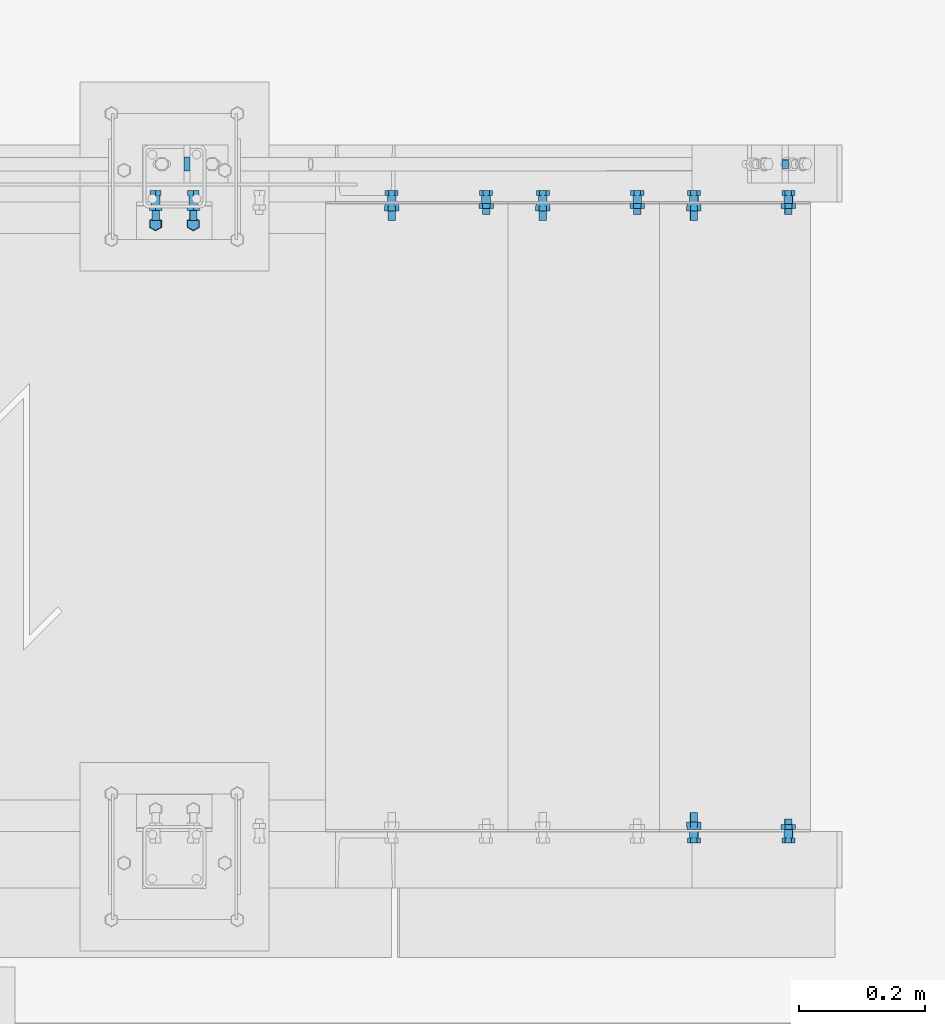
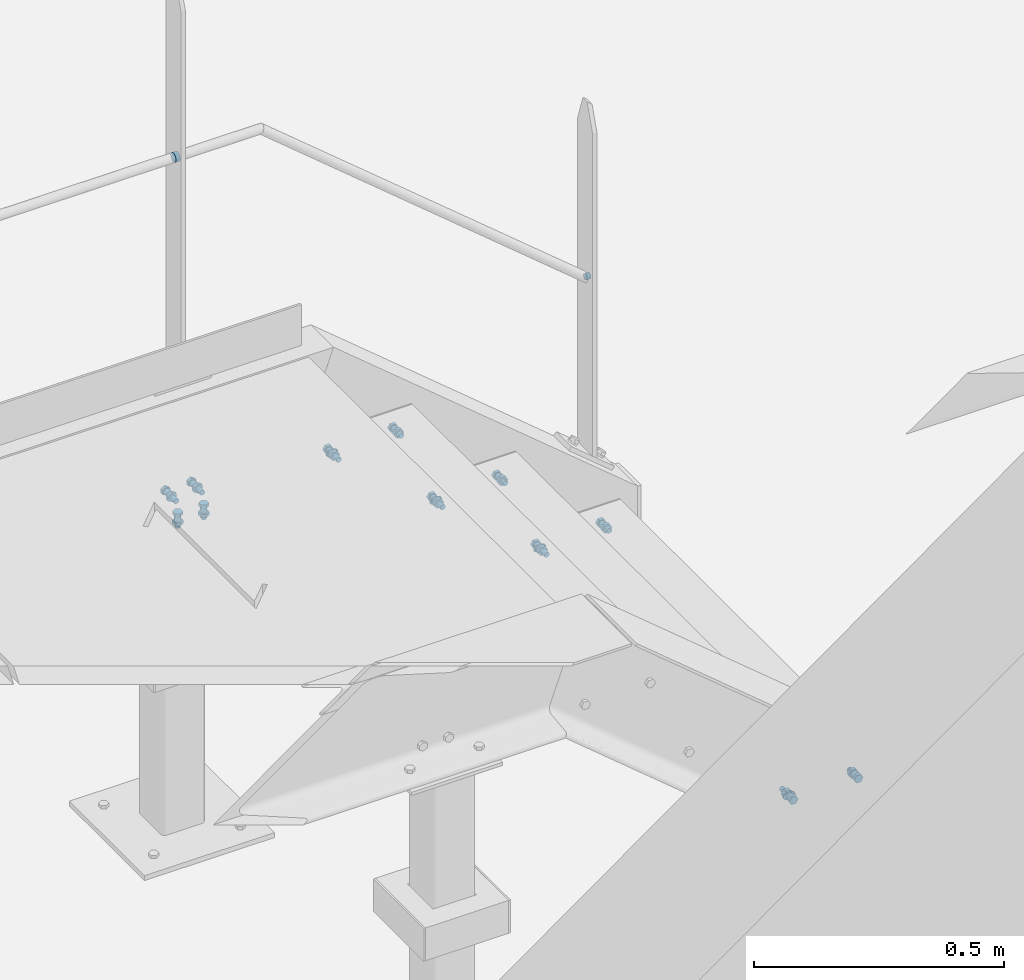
# One storey, part 304 of 362: 12 mechanical fasteners.
"""IFC2X3 building model written with IfcOpenShell, lengths in millimetres."""

from ifc_helpers import new_model, si_unit, frame, frame_2d, origin_with_axes, origin_2d_with_axis, place, context, subcontext, project, spatial, polyline, circle_curve, parameter, trimmed, segment, composite_curve, circle, outline, extrude, source, transform, mapped, material, type_object, element, save


model = new_model("IFC2X3")

# Units and contexts
model_context = context("Model", 3, precision=1e-05, world=origin_with_axes())
body_context = subcontext(model_context, "Body", "Model", "MODEL_VIEW")
ifc_project = project(units=[si_unit("LENGTHUNIT", "METRE", prefix="MILLI"), si_unit("AREAUNIT", "SQUARE_METRE"), si_unit("VOLUMEUNIT", "CUBIC_METRE"), si_unit("MASSUNIT", "GRAM", prefix="KILO"), si_unit("TIMEUNIT", "SECOND"), si_unit("PLANEANGLEUNIT", "RADIAN"), si_unit("SOLIDANGLEUNIT", "STERADIAN"), si_unit("THERMODYNAMICTEMPERATUREUNIT", "DEGREE_CELSIUS"), si_unit("LUMINOUSINTENSITYUNIT", "LUMEN")], contexts=[model_context])

# Site, building, storey
site_placement = place(None, origin_with_axes())
site = spatial("IfcSite", under=ifc_project, at=site_placement, Name="Undefined", CompositionType="ELEMENT")
building_placement = place(site_placement, origin_with_axes())
building = spatial("IfcBuilding", under=site, at=building_placement, Name="Undefined", CompositionType="ELEMENT")
storey_placement = place(building_placement, origin_with_axes())
storey = spatial("IfcBuildingStorey", under=building, at=storey_placement, Name="Undefined", CompositionType="ELEMENT", Elevation=0.0)

# Mechanical fasteners
ifc_material_1 = material(Name="6.8")
mechanical_fastener_type = type_object("IfcMechanicalFastenerType", Name="Bolt assembly")
shared_shape_1 = source(origin_with_axes(), body_context, "Body", "SweptSolid", [
    extrude(circle(Radius=11.0, at=origin_2d_with_axis()), frame((0.0, -5.00000000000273, 0.0), z_axis=(0.0, 1.0, 0.0), x_axis=(1.0, 0.0, 0.0)), (0.0, 0.0, 1.0), 10.1),
])
mechanical_fastener_1_placement = place(storey_placement, frame((24875.0061849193, 17089.9938659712, 8653.7999407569), z_axis=(0.0, 0.0, -1.0), x_axis=(0.0, -1.0, 0.0)))
element("IfcMechanicalFastener", 1, at=mechanical_fastener_1_placement, inside=storey, type_object=mechanical_fastener_type, material=ifc_material_1, Name="Bolt assembly", NominalDiameter=20.0, NominalLength=10.0, context=body_context, shape_type="MappedRepresentation", body=[
    mapped(shared_shape_1, transform((0.0, 0.0, 0.0))),
])
shared_shape_2 = source(origin_with_axes(), body_context, "Body", "SweptSolid", [
    extrude(circle(Radius=7.0, at=origin_2d_with_axis()), frame((0.0, -10.0000010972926, 0.0), z_axis=(0.0, 1.0, 0.0), x_axis=(1.0, 0.0, 0.0)), (0.0, 0.0, 1.0), 10.1),
])
mechanical_fastener_2_placement = place(storey_placement, frame((25820.0061849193, 17089.9938659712, 8029.89862662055), z_axis=(0.0, 0.0, -1.0), x_axis=(0.0, -1.0, 0.0)))
element("IfcMechanicalFastener", 2, at=mechanical_fastener_2_placement, inside=storey, type_object=mechanical_fastener_type, material=ifc_material_1, Name="Bolt assembly", NominalDiameter=12.0, NominalLength=10.0, context=body_context, shape_type="MappedRepresentation", body=[
    mapped(shared_shape_2, transform((0.0, 0.0, 0.0))),
])
ifc_material_2 = material(Name="8.8-SB-GALVA")
shared_shape_3 = source(origin_with_axes(), body_context, "Body", "SweptSolid", [
    extrude(circle(Radius=7.0, at=origin_2d_with_axis()), frame((0.0, -0.10007666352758, 0.0), z_axis=(0.0, 1.0, 0.0), x_axis=(1.0, 0.0, 0.0)), (0.0, 0.0, 1.0), 8.1),
    extrude(circle(Radius=7.0, at=origin_2d_with_axis()), frame((0.0, -5.8999542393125, 0.0), z_axis=(0.0, 1.0, 0.0), x_axis=(1.0, 0.0, 0.0)), (0.0, 0.0, 1.0), 6.0),
    extrude(outline(polyline([(10.39230484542, 0.0), (5.19615242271, 9.00000000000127), (-5.19615242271, 9.00000000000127), (-10.39230484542, 0.0), (-5.19615242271, -9.00000000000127), (5.19615242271, -9.00000000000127), (10.39230484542, 0.0)])), frame((0.0, -13.9199542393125, 0.0), z_axis=(0.0, 1.0, 0.0), x_axis=(1.0, 0.0, 0.0)), (0.0, 0.0, 1.0), 7.92),
    extrude(circle(Radius=6.0, at=origin_2d_with_axis()), frame((0.0, -5.9999542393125, 0.0), z_axis=(0.0, 1.0, 0.0), x_axis=(1.0, 0.0, 0.0)), (0.0, 0.0, 1.0), 30.0),
    extrude(outline(polyline([(11.5008173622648, 0.0), (5.7504086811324, 9.96000000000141), (-5.7504086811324, 9.96000000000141), (-11.5008173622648, 0.0), (-5.7504086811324, -9.96000000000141), (5.7504086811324, -9.96000000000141), (11.5008173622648, 0.0)])), frame((0.0, 7.99992914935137, 0.0), z_axis=(0.0, 1.0, 0.0), x_axis=(1.0, 0.0, 0.0)), (0.0, 0.0, 1.0), 7.92),
])
mechanical_fastener_3_placement = place(storey_placement, frame((24855.0, 16994.9998774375, 7849.9999407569), z_axis=(-1.0, 0.0, 0.0), x_axis=(0.0, 1.0, 0.0)))
element("IfcMechanicalFastener", 3, at=mechanical_fastener_3_placement, inside=storey, type_object=mechanical_fastener_type, material=ifc_material_2, Name="Bolt assembly", NominalDiameter=12.0, NominalLength=30.0, context=body_context, shape_type="MappedRepresentation", body=[
    mapped(shared_shape_3, transform((0.0, 0.0, -30.0))),
    mapped(shared_shape_3, transform((0.0, 0.0, 30.0))),
])
shared_shape_4 = source(origin_with_axes(), body_context, "Body", "SweptSolid", [
    extrude(circle(Radius=7.0, at=origin_2d_with_axis()), frame((0.0, -9.9, 0.0), z_axis=(0.0, 1.0, 0.0), x_axis=(1.0, 0.0, 0.0)), (0.0, 0.0, 1.0), 10.0),
    extrude(circle(Radius=7.0, at=origin_2d_with_axis()), frame((0.0, -0.100011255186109, 0.0), z_axis=(0.0, 1.0, 0.0), x_axis=(1.0, 0.0, 0.0)), (0.0, 0.0, 1.0), 3.1),
    extrude(outline(polyline([(10.39230484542, 0.0), (5.19615242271, 9.00000000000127), (-5.19615242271, 9.00000000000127), (-10.39230484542, 0.0), (-5.19615242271, -9.00000000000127), (5.19615242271, -9.00000000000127), (10.39230484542, 0.0)])), frame((0.0, -17.92, 0.0), z_axis=(0.0, 1.0, 0.0), x_axis=(1.0, 0.0, 0.0)), (0.0, 0.0, 1.0), 7.92),
    extrude(circle(Radius=6.0, at=origin_2d_with_axis()), frame((0.0, -10.0000010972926, 0.0), z_axis=(0.0, 1.0, 0.0), x_axis=(1.0, 0.0, 0.0)), (0.0, 0.0, 1.0), 30.0),
    extrude(outline(polyline([(11.5008173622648, 0.0), (5.7504086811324, 9.96000000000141), (-5.7504086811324, 9.96000000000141), (-11.5008173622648, 0.0), (-5.7504086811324, -9.96000000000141), (5.7504086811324, -9.96000000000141), (11.5008173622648, 0.0)])), frame((0.0, 3.00000067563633, 0.0), z_axis=(0.0, 1.0, 0.0), x_axis=(1.0, 0.0, 0.0)), (0.0, 0.0, 1.0), 7.92),
])
mechanical_fastener_4_placement = place(storey_placement, frame((25829.9999902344, 16029.9998774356, 7455.0), z_axis=(0.0, 0.0, -1.0), x_axis=(-1.0, 0.0, 0.0)))
element("IfcMechanicalFastener", 4, at=mechanical_fastener_4_placement, inside=storey, type_object=mechanical_fastener_type, material=ifc_material_2, Name="Bolt assembly", NominalDiameter=12.0, NominalLength=30.0, context=body_context, shape_type="MappedRepresentation", body=[
    mapped(shared_shape_4, transform((0.0, 0.0, 0.0))),
])
shared_shape_5 = source(origin_with_axes(), body_context, "Body", "SweptSolid", [
    extrude(circle(Radius=7.0, at=origin_2d_with_axis()), frame((0.0, -9.89975487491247, 0.0), z_axis=(0.0, 1.0, 0.0), x_axis=(1.0, 0.0, 0.0)), (0.0, 0.0, 1.0), 10.0),
    extrude(circle(Radius=7.0, at=origin_2d_with_axis()), frame((0.0, -0.100011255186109, 0.0), z_axis=(0.0, 1.0, 0.0), x_axis=(1.0, 0.0, 0.0)), (0.0, 0.0, 1.0), 3.1),
    extrude(outline(polyline([(10.39230484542, 0.0), (5.19615242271, 9.00000000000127), (-5.19615242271, 9.00000000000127), (-10.39230484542, 0.0), (-5.19615242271, -9.00000000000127), (5.19615242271, -9.00000000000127), (10.39230484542, 0.0)])), frame((0.0, -17.9197548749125, 0.0), z_axis=(0.0, 1.0, 0.0), x_axis=(1.0, 0.0, 0.0)), (0.0, 0.0, 1.0), 7.92),
    extrude(circle(Radius=6.0, at=origin_2d_with_axis()), frame((0.0, -9.99975487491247, 0.0), z_axis=(0.0, 1.0, 0.0), x_axis=(1.0, 0.0, 0.0)), (0.0, 0.0, 1.0), 30.0),
    extrude(outline(polyline([(11.5008173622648, 0.0), (5.7504086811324, 9.96000000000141), (-5.7504086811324, 9.96000000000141), (-11.5008173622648, 0.0), (-5.7504086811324, -9.96000000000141), (5.7504086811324, -9.96000000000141), (11.5008173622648, 0.0)])), frame((0.0, 3.00000067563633, 0.0), z_axis=(0.0, 1.0, 0.0), x_axis=(1.0, 0.0, 0.0)), (0.0, 0.0, 1.0), 7.92),
])
for number, where, z_axis, x_axis, name in (
    (5, (25349.9999902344, 17030.0001225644, 7854.9999407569), (0.0, 0.0, 1.0), (-1.0, 0.0, 0.0), "Bolt assembly"),
    (6, (25589.9999902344, 17030.0001225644, 7655.0), (0.0, 0.0, 1.0), (-1.0, 0.0, 0.0), "Bolt assembly"),
    (7, (25829.9999902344, 17030.0001225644, 7455.0), (0.0, 0.0, 1.0), (-1.0, 0.0, 0.0), "Bolt assembly"),
):
    element("IfcMechanicalFastener", number, at=place(storey_placement, frame(where, z_axis=z_axis, x_axis=x_axis)), inside=storey, type_object=mechanical_fastener_type, material=ifc_material_2, Name=name, NominalDiameter=12.0, NominalLength=30.0, context=body_context, shape_type="MappedRepresentation", body=[
        mapped(shared_shape_5, transform((0.0, 0.0, 0.0))),
    ])
shared_shape_6 = source(origin_with_axes(), body_context, "Body", "SweptSolid", [
    extrude(circle(Radius=7.0, at=origin_2d_with_axis()), frame((0.0, -9.8996134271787, 0.0), z_axis=(0.0, 1.0, 0.0), x_axis=(1.0, 0.0, 0.0)), (0.0, 0.0, 1.0), 10.0),
    extrude(circle(Radius=7.0, at=origin_2d_with_axis()), frame((0.0, -0.100011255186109, 0.0), z_axis=(0.0, 1.0, 0.0), x_axis=(1.0, 0.0, 0.0)), (0.0, 0.0, 1.0), 6.1),
    extrude(outline(polyline([(10.39230484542, 0.0), (5.19615242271, 9.00000000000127), (-5.19615242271, 9.00000000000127), (-10.39230484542, 0.0), (-5.19615242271, -9.00000000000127), (5.19615242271, -9.00000000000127), (10.39230484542, 0.0)])), frame((0.0, -17.9196134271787, 0.0), z_axis=(0.0, 1.0, 0.0), x_axis=(1.0, 0.0, 0.0)), (0.0, 0.0, 1.0), 7.92),
    extrude(circle(Radius=6.0, at=origin_2d_with_axis()), frame((0.0, -9.9996134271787, 0.0), z_axis=(0.0, 1.0, 0.0), x_axis=(1.0, 0.0, 0.0)), (0.0, 0.0, 1.0), 40.0),
    extrude(outline(polyline([(11.5008173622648, 0.0), (5.7504086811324, 9.96000000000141), (-5.7504086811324, 9.96000000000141), (-11.5008173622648, 0.0), (-5.7504086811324, -9.96000000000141), (5.7504086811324, -9.96000000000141), (11.5008173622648, 0.0)])), frame((0.0, 6.0, 0.0), z_axis=(0.0, 1.0, 0.0), x_axis=(1.0, 0.0, 0.0)), (0.0, 0.0, 1.0), 7.92),
])
mechanical_fastener_5_placement = place(storey_placement, frame((24855.0, 17029.9998774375, 7884.9999407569), z_axis=(-1.0, 0.0, 0.0), x_axis=(0.0, 0.0, -1.0)))
element("IfcMechanicalFastener", 8, at=mechanical_fastener_5_placement, inside=storey, type_object=mechanical_fastener_type, material=ifc_material_2, Name="Bolt assembly", NominalDiameter=12.0, NominalLength=40.0, context=body_context, shape_type="MappedRepresentation", body=[
    mapped(shared_shape_6, transform((0.0, 0.0, -30.0))),
    mapped(shared_shape_6, transform((0.0, 0.0, 30.0))),
])
shared_shape_7 = source(origin_with_axes(), body_context, "Body", "SweptSolid", [
    extrude(circle(Radius=7.0, at=origin_2d_with_axis()), frame((0.0, -9.89975487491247, 0.0), z_axis=(0.0, 1.0, 0.0), x_axis=(1.0, 0.0, 0.0)), (0.0, 0.0, 1.0), 10.0),
    extrude(outline(composite_curve([segment(polyline([(-7.0, 7.0), (7.0, 7.0)]), True, "CONTINUOUS"), segment(trimmed(circle_curve(frame_2d((7.0, 0.0), x_axis=(0.0, 1.0)), 7.0), [parameter(0.0)], [parameter(3.14159265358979)], False, "PARAMETER"), True, "CONTINUOUS"), segment(polyline([(7.0, -7.0), (-7.0, -7.0)]), True, "CONTINUOUS"), segment(trimmed(circle_curve(frame_2d((-7.0, 0.0), x_axis=(0.0, -1.0)), 7.0), [parameter(0.0)], [parameter(3.14159265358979)], False, "PARAMETER"), True, "DISCONTINUOUS")], self_intersect=False)), frame((0.0, -0.100011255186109, 0.0), z_axis=(0.0, 1.0, 0.0), x_axis=(1.0, 0.0, 0.0)), (0.0, 0.0, 1.0), 3.1),
    extrude(outline(polyline([(10.39230484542, 0.0), (5.19615242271, 9.00000000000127), (-5.19615242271, 9.00000000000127), (-10.39230484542, 0.0), (-5.19615242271, -9.00000000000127), (5.19615242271, -9.00000000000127), (10.39230484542, 0.0)])), frame((0.0, -17.9197548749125, 0.0), z_axis=(0.0, 1.0, 0.0), x_axis=(1.0, 0.0, 0.0)), (0.0, 0.0, 1.0), 7.92),
    extrude(circle(Radius=6.0, at=origin_2d_with_axis()), frame((0.0, -9.99975487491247, 0.0), z_axis=(0.0, 1.0, 0.0), x_axis=(1.0, 0.0, 0.0)), (0.0, 0.0, 1.0), 40.0),
    extrude(circle(Radius=10.8, at=origin_2d_with_axis()), frame((0.0, 3.00000067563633, 0.0), z_axis=(0.0, 1.0, 0.0), x_axis=(1.0, 0.0, 0.0)), (0.0, 0.0, 1.0), 3.96),
    extrude(outline(polyline([(11.5008173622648, 0.0), (5.7504086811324, 9.96000000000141), (-5.7504086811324, 9.96000000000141), (-11.5008173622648, 0.0), (-5.7504086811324, -9.96000000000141), (5.7504086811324, -9.96000000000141), (11.5008173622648, 0.0)])), frame((0.0, 6.96, 0.0), z_axis=(0.0, 1.0, 0.0), x_axis=(1.0, 0.0, 0.0)), (0.0, 0.0, 1.0), 7.92),
])
mechanical_fastener_6_placement = place(storey_placement, frame((25199.9999902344, 17030.0001225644, 7854.9999407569), z_axis=(0.0, 0.0, 1.0), x_axis=(-1.0, 0.0, 0.0)))
element("IfcMechanicalFastener", 9, at=mechanical_fastener_6_placement, inside=storey, type_object=mechanical_fastener_type, material=ifc_material_2, Name="Bolt assembly", NominalDiameter=12.0, NominalLength=40.0, context=body_context, shape_type="MappedRepresentation", body=[
    mapped(shared_shape_7, transform((0.0, 0.0, 0.0))),
])
shared_shape_8 = source(origin_with_axes(), body_context, "Body", "SweptSolid", [
    extrude(circle(Radius=7.0, at=origin_2d_with_axis()), frame((0.0, -9.89975487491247, 0.0), z_axis=(0.0, 1.0, 0.0), x_axis=(1.0, 0.0, 0.0)), (0.0, 0.0, 1.0), 10.0),
    extrude(outline(composite_curve([segment(polyline([(-7.0, 7.0), (7.0, 7.0)]), True, "CONTINUOUS"), segment(trimmed(circle_curve(frame_2d((7.0, 0.0), x_axis=(0.0, 1.0)), 7.0), [parameter(0.0)], [parameter(3.14159265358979)], False, "PARAMETER"), True, "CONTINUOUS"), segment(polyline([(7.0, -7.0), (-7.0, -7.0)]), True, "CONTINUOUS"), segment(trimmed(circle_curve(frame_2d((-7.0, 0.0), x_axis=(0.0, -1.0)), 7.0), [parameter(0.0)], [parameter(3.14159265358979)], False, "PARAMETER"), True, "DISCONTINUOUS")], self_intersect=False)), frame((0.0, -0.100011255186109, 0.0), z_axis=(0.0, 1.0, 0.0), x_axis=(1.0, 0.0, 0.0)), (0.0, 0.0, 1.0), 3.1),
    extrude(outline(polyline([(10.39230484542, 0.0), (5.19615242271, 9.00000000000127), (-5.19615242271, 9.00000000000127), (-10.39230484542, 0.0), (-5.19615242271, -9.00000000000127), (5.19615242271, -9.00000000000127), (10.39230484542, 0.0)])), frame((0.0, -17.9197548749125, 0.0), z_axis=(0.0, 1.0, 0.0), x_axis=(1.0, 0.0, 0.0)), (0.0, 0.0, 1.0), 7.92),
    extrude(circle(Radius=6.0, at=origin_2d_with_axis()), frame((0.0, -9.99975487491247, 0.0), z_axis=(0.0, 1.0, 0.0), x_axis=(1.0, 0.0, 0.0)), (0.0, 0.0, 1.0), 40.0),
    extrude(circle(Radius=10.8, at=origin_2d_with_axis()), frame((0.0, 3.00000067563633, 0.0), z_axis=(0.0, 1.0, 0.0), x_axis=(1.0, 0.0, 0.0)), (0.0, 0.0, 1.0), 3.96),
    extrude(outline(polyline([(11.5008173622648, 0.0), (5.7504086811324, 9.96000000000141), (-5.7504086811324, 9.96000000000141), (-11.5008173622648, 0.0), (-5.7504086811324, -9.96000000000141), (5.7504086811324, -9.96000000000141), (11.5008173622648, 0.0)])), frame((0.0, 6.96, 0.0), z_axis=(0.0, 1.0, 0.0), x_axis=(1.0, 0.0, 0.0)), (0.0, 0.0, 1.0), 7.92),
])
mechanical_fastener_7_placement = place(storey_placement, frame((25439.9999902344, 17030.0001225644, 7655.0), z_axis=(0.0, 0.0, 1.0), x_axis=(-1.0, 0.0, 0.0)))
element("IfcMechanicalFastener", 10, at=mechanical_fastener_7_placement, inside=storey, type_object=mechanical_fastener_type, material=ifc_material_2, Name="Bolt assembly", NominalDiameter=12.0, NominalLength=40.0, context=body_context, shape_type="MappedRepresentation", body=[
    mapped(shared_shape_8, transform((0.0, 0.0, 0.0))),
])
shared_shape_9 = source(origin_with_axes(), body_context, "Body", "SweptSolid", [
    extrude(circle(Radius=7.0, at=origin_2d_with_axis()), frame((0.0, -9.89975487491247, 0.0), z_axis=(0.0, 1.0, 0.0), x_axis=(1.0, 0.0, 0.0)), (0.0, 0.0, 1.0), 10.0),
    extrude(outline(composite_curve([segment(polyline([(-7.0, 7.0), (7.0, 7.0)]), True, "CONTINUOUS"), segment(trimmed(circle_curve(frame_2d((7.0, 0.0), x_axis=(0.0, 1.0)), 7.0), [parameter(0.0)], [parameter(3.14159265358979)], False, "PARAMETER"), True, "CONTINUOUS"), segment(polyline([(7.0, -7.0), (-7.0, -7.0)]), True, "CONTINUOUS"), segment(trimmed(circle_curve(frame_2d((-7.0, 0.0), x_axis=(0.0, -1.0)), 7.0), [parameter(0.0)], [parameter(3.14159265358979)], False, "PARAMETER"), True, "DISCONTINUOUS")], self_intersect=False)), frame((0.0, -0.100011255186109, 0.0), z_axis=(0.0, 1.0, 0.0), x_axis=(1.0, 0.0, 0.0)), (0.0, 0.0, 1.0), 3.1),
    extrude(outline(polyline([(10.39230484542, 0.0), (5.19615242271, 9.00000000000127), (-5.19615242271, 9.00000000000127), (-10.39230484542, 0.0), (-5.19615242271, -9.00000000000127), (5.19615242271, -9.00000000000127), (10.39230484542, 0.0)])), frame((0.0, -17.9197548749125, 0.0), z_axis=(0.0, 1.0, 0.0), x_axis=(1.0, 0.0, 0.0)), (0.0, 0.0, 1.0), 7.92),
    extrude(circle(Radius=6.0, at=origin_2d_with_axis()), frame((0.0, -9.99975487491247, 0.0), z_axis=(0.0, 1.0, 0.0), x_axis=(1.0, 0.0, 0.0)), (0.0, 0.0, 1.0), 40.0),
    extrude(circle(Radius=10.8, at=origin_2d_with_axis()), frame((0.0, 3.00000067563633, 0.0), z_axis=(0.0, 1.0, 0.0), x_axis=(1.0, 0.0, 0.0)), (0.0, 0.0, 1.0), 3.96),
    extrude(outline(polyline([(11.5008173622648, 0.0), (5.7504086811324, 9.96000000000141), (-5.7504086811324, 9.96000000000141), (-11.5008173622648, 0.0), (-5.7504086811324, -9.96000000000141), (5.7504086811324, -9.96000000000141), (11.5008173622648, 0.0)])), frame((0.0, 6.96, 0.0), z_axis=(0.0, 1.0, 0.0), x_axis=(1.0, 0.0, 0.0)), (0.0, 0.0, 1.0), 7.92),
])
mechanical_fastener_8_placement = place(storey_placement, frame((25679.9999902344, 17030.0001225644, 7455.0), z_axis=(0.0, 0.0, 1.0), x_axis=(-1.0, 0.0, 0.0)))
element("IfcMechanicalFastener", 11, at=mechanical_fastener_8_placement, inside=storey, type_object=mechanical_fastener_type, material=ifc_material_2, Name="Bolt assembly", NominalDiameter=12.0, NominalLength=40.0, context=body_context, shape_type="MappedRepresentation", body=[
    mapped(shared_shape_9, transform((0.0, 0.0, 0.0))),
])
shared_shape_10 = source(origin_with_axes(), body_context, "Body", "SweptSolid", [
    extrude(circle(Radius=7.0, at=origin_2d_with_axis()), frame((0.0, -9.9, 0.0), z_axis=(0.0, 1.0, 0.0), x_axis=(1.0, 0.0, 0.0)), (0.0, 0.0, 1.0), 10.0),
    extrude(outline(composite_curve([segment(polyline([(-7.0, 7.0), (7.0, 7.0)]), True, "CONTINUOUS"), segment(trimmed(circle_curve(frame_2d((7.0, 0.0), x_axis=(0.0, 1.0)), 7.0), [parameter(0.0)], [parameter(3.14159265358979)], False, "PARAMETER"), True, "CONTINUOUS"), segment(polyline([(7.0, -7.0), (-7.0, -7.0)]), True, "CONTINUOUS"), segment(trimmed(circle_curve(frame_2d((-7.0, 0.0), x_axis=(0.0, -1.0)), 7.0), [parameter(0.0)], [parameter(3.14159265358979)], False, "PARAMETER"), True, "DISCONTINUOUS")], self_intersect=False)), frame((0.0, -0.100011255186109, 0.0), z_axis=(0.0, 1.0, 0.0), x_axis=(1.0, 0.0, 0.0)), (0.0, 0.0, 1.0), 3.1),
    extrude(outline(polyline([(10.39230484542, 0.0), (5.19615242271, 9.00000000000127), (-5.19615242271, 9.00000000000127), (-10.39230484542, 0.0), (-5.19615242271, -9.00000000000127), (5.19615242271, -9.00000000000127), (10.39230484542, 0.0)])), frame((0.0, -17.92, 0.0), z_axis=(0.0, 1.0, 0.0), x_axis=(1.0, 0.0, 0.0)), (0.0, 0.0, 1.0), 7.92),
    extrude(circle(Radius=6.0, at=origin_2d_with_axis()), frame((0.0, -10.0000010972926, 0.0), z_axis=(0.0, 1.0, 0.0), x_axis=(1.0, 0.0, 0.0)), (0.0, 0.0, 1.0), 40.0),
    extrude(circle(Radius=10.8, at=origin_2d_with_axis()), frame((0.0, 3.00000067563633, 0.0), z_axis=(0.0, 1.0, 0.0), x_axis=(1.0, 0.0, 0.0)), (0.0, 0.0, 1.0), 3.96),
    extrude(outline(polyline([(11.5008173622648, 0.0), (5.7504086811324, 9.96000000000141), (-5.7504086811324, 9.96000000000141), (-11.5008173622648, 0.0), (-5.7504086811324, -9.96000000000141), (5.7504086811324, -9.96000000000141), (11.5008173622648, 0.0)])), frame((0.0, 6.96, 0.0), z_axis=(0.0, 1.0, 0.0), x_axis=(1.0, 0.0, 0.0)), (0.0, 0.0, 1.0), 7.92),
])
mechanical_fastener_9_placement = place(storey_placement, frame((25679.9999902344, 16029.9998774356, 7455.0), z_axis=(0.0, 0.0, -1.0), x_axis=(-1.0, 0.0, 0.0)))
element("IfcMechanicalFastener", 12, at=mechanical_fastener_9_placement, inside=storey, type_object=mechanical_fastener_type, material=ifc_material_2, Name="Bolt assembly", NominalDiameter=12.0, NominalLength=40.0, context=body_context, shape_type="MappedRepresentation", body=[
    mapped(shared_shape_10, transform((0.0, 0.0, 0.0))),
])

save(model, "model.ifc")
